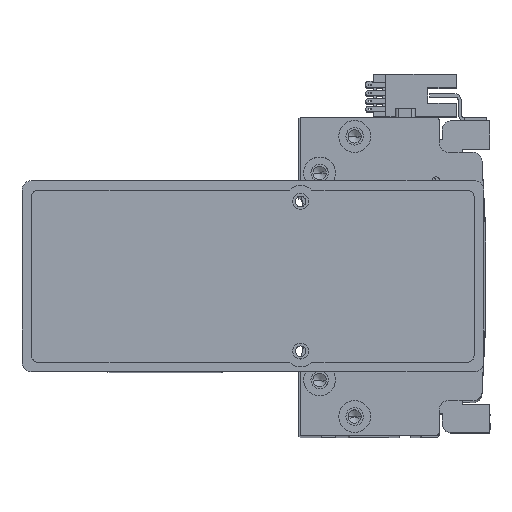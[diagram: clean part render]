
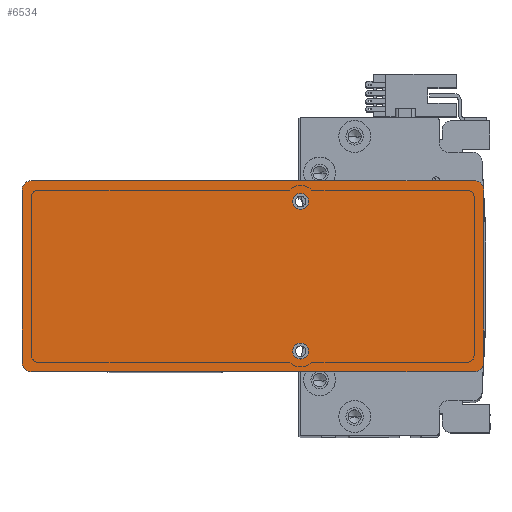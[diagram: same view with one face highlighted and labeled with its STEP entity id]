
A CAD part, top view. The second image highlights one B-rep face of the part: STEP entity #6534.
In plain terms, the highlighted planar face has unit normal (0, 0, 1) as drawn and (0, 0, -1) by its records, which use the part's own axes.
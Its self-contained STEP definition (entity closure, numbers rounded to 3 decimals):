
#179 = DIRECTION ( 'NONE',  ( 0., 0., -1. ) ) ;
#531 = VERTEX_POINT ( 'NONE', #945 ) ;
#945 = CARTESIAN_POINT ( 'NONE',  ( 17.5, 23.5, 0. ) ) ;
#1276 = EDGE_LOOP ( 'NONE', ( #40757, #7970, #22447, #2617, #34838, #4057, #14231, #16727 ) ) ;
#1485 = EDGE_CURVE ( 'NONE', #22270, #40033, #10555, .T. ) ;
#1716 = DIRECTION ( 'NONE',  ( 0., 0., -1. ) ) ;
#2617 = ORIENTED_EDGE ( 'NONE', *, *, #28160, .T. ) ;
#2722 = AXIS2_PLACEMENT_3D ( 'NONE', #32416, #13267, #35583 ) ;
#3420 = CIRCLE ( 'NONE', #23013, 2.5 ) ;
#3762 = CARTESIAN_POINT ( 'NONE',  ( 12.5, 23.5, 0. ) ) ;
#4057 = ORIENTED_EDGE ( 'NONE', *, *, #7630, .T. ) ;
#4168 = DIRECTION ( 'NONE',  ( 0., 0., -1. ) ) ;
#4259 = CARTESIAN_POINT ( 'NONE',  ( 72.5, -30., 0. ) ) ;
#4291 = VECTOR ( 'NONE', #6924, 1000. ) ;
#4428 = EDGE_CURVE ( 'NONE', #8315, #39169, #21119, .T. ) ;
#4937 = CARTESIAN_POINT ( 'NONE',  ( 69.5, 30., 0. ) ) ;
#5085 = EDGE_CURVE ( 'NONE', #531, #27422, #39192, .T. ) ;
#5554 = EDGE_CURVE ( 'NONE', #37574, #35000, #10160, .T. ) ;
#6534 = ADVANCED_FACE ( 'NONE', ( #16966, #9504, #33942 ), #34395, .F. ) ;
#6924 = DIRECTION ( 'NONE',  ( -1., 0., 0. ) ) ;
#7270 = EDGE_CURVE ( 'NONE', #37574, #40033, #21393, .T. ) ;
#7630 = EDGE_CURVE ( 'NONE', #29304, #30837, #35784, .T. ) ;
#7801 = AXIS2_PLACEMENT_3D ( 'NONE', #29879, #10743, #33069 ) ;
#7970 = ORIENTED_EDGE ( 'NONE', *, *, #7270, .T. ) ;
#8013 = CARTESIAN_POINT ( 'NONE',  ( 17.5, -23.5, 0. ) ) ;
#8315 = VERTEX_POINT ( 'NONE', #8013 ) ;
#8617 = CARTESIAN_POINT ( 'NONE',  ( 12.5, -23.5, 0. ) ) ;
#8791 = EDGE_CURVE ( 'NONE', #27422, #531, #40060, .T. ) ;
#9012 = DIRECTION ( 'NONE',  ( 0., 0., 1. ) ) ;
#9504 = FACE_BOUND ( 'NONE', #15411, .T. ) ;
#10160 = LINE ( 'NONE', #4259, #10637 ) ;
#10555 = LINE ( 'NONE', #34994, #18014 ) ;
#10637 = VECTOR ( 'NONE', #17089, 1000. ) ;
#10743 = DIRECTION ( 'NONE',  ( 0., 0., -1. ) ) ;
#11407 = DIRECTION ( 'NONE',  ( 0., 0., -1. ) ) ;
#11409 = AXIS2_PLACEMENT_3D ( 'NONE', #35089, #15998, #38321 ) ;
#11489 = EDGE_CURVE ( 'NONE', #34646, #35000, #31765, .T. ) ;
#11594 = CARTESIAN_POINT ( 'NONE',  ( 15., -23.5, 0. ) ) ;
#12289 = EDGE_LOOP ( 'NONE', ( #19392, #32164 ) ) ;
#12612 = VECTOR ( 'NONE', #38181, 1000. ) ;
#12670 = DIRECTION ( 'NONE',  ( 1., 0., 0. ) ) ;
#13267 = DIRECTION ( 'NONE',  ( 0., 0., -1. ) ) ;
#14191 = CIRCLE ( 'NONE', #27730, 3. ) ;
#14231 = ORIENTED_EDGE ( 'NONE', *, *, #41153, .F. ) ;
#14253 = EDGE_CURVE ( 'NONE', #29304, #31395, #20107, .T. ) ;
#14824 = DIRECTION ( 'NONE',  ( -1., 0., 0. ) ) ;
#15411 = EDGE_LOOP ( 'NONE', ( #20597, #35812 ) ) ;
#15998 = DIRECTION ( 'NONE',  ( 0., 0., -1. ) ) ;
#16727 = ORIENTED_EDGE ( 'NONE', *, *, #11489, .T. ) ;
#16966 = FACE_BOUND ( 'NONE', #12289, .T. ) ;
#17089 = DIRECTION ( 'NONE',  ( 0., 1., 0. ) ) ;
#17156 = CARTESIAN_POINT ( 'NONE',  ( -69.5, 30., 0. ) ) ;
#17276 = CARTESIAN_POINT ( 'NONE',  ( 69.5, -30., 0. ) ) ;
#17491 = AXIS2_PLACEMENT_3D ( 'NONE', #23330, #4168, #26503 ) ;
#18014 = VECTOR ( 'NONE', #12670, 1000. ) ;
#19365 = CARTESIAN_POINT ( 'NONE',  ( -69.5, 27., 0. ) ) ;
#19392 = ORIENTED_EDGE ( 'NONE', *, *, #8791, .F. ) ;
#19811 = CARTESIAN_POINT ( 'NONE',  ( -72.5, -27., 0. ) ) ;
#20107 = LINE ( 'NONE', #34963, #12612 ) ;
#20597 = ORIENTED_EDGE ( 'NONE', *, *, #25083, .F. ) ;
#20890 = CARTESIAN_POINT ( 'NONE',  ( -69.5, -27., 0. ) ) ;
#21119 = CIRCLE ( 'NONE', #17491, 2.5 ) ;
#21393 = CIRCLE ( 'NONE', #7801, 3. ) ;
#21693 = CARTESIAN_POINT ( 'NONE',  ( -69.5, -30., 0. ) ) ;
#22270 = VERTEX_POINT ( 'NONE', #21693 ) ;
#22447 = ORIENTED_EDGE ( 'NONE', *, *, #1485, .F. ) ;
#22571 = DIRECTION ( 'NONE',  ( 1., 0., 0. ) ) ;
#23013 = AXIS2_PLACEMENT_3D ( 'NONE', #11594, #33916, #14824 ) ;
#23330 = CARTESIAN_POINT ( 'NONE',  ( 15., -23.5, 0. ) ) ;
#24103 = DIRECTION ( 'NONE',  ( 1., 0., 0. ) ) ;
#25083 = EDGE_CURVE ( 'NONE', #39169, #8315, #3420, .T. ) ;
#25447 = AXIS2_PLACEMENT_3D ( 'NONE', #19365, #179, #22571 ) ;
#26503 = DIRECTION ( 'NONE',  ( -1., 0., 0. ) ) ;
#27422 = VERTEX_POINT ( 'NONE', #3762 ) ;
#27730 = AXIS2_PLACEMENT_3D ( 'NONE', #20890, #1716, #24103 ) ;
#28137 = CARTESIAN_POINT ( 'NONE',  ( 0., 0., 0. ) ) ;
#28160 = EDGE_CURVE ( 'NONE', #22270, #31395, #14191, .T. ) ;
#29243 = CARTESIAN_POINT ( 'NONE',  ( 72.5, 30., 0. ) ) ;
#29304 = VERTEX_POINT ( 'NONE', #40592 ) ;
#29612 = CARTESIAN_POINT ( 'NONE',  ( 72.5, 27., 0. ) ) ;
#29879 = CARTESIAN_POINT ( 'NONE',  ( 69.5, -27., 0. ) ) ;
#30554 = CARTESIAN_POINT ( 'NONE',  ( 15., 23.5, 0. ) ) ;
#30837 = VERTEX_POINT ( 'NONE', #17156 ) ;
#31353 = DIRECTION ( 'NONE',  ( 1., 0., 0. ) ) ;
#31395 = VERTEX_POINT ( 'NONE', #19811 ) ;
#31765 = CIRCLE ( 'NONE', #11409, 3. ) ;
#32164 = ORIENTED_EDGE ( 'NONE', *, *, #5085, .F. ) ;
#32416 = CARTESIAN_POINT ( 'NONE',  ( 15., 23.5, 0. ) ) ;
#33069 = DIRECTION ( 'NONE',  ( 1., 0., 0. ) ) ;
#33741 = DIRECTION ( 'NONE',  ( -1., 0., 0. ) ) ;
#33916 = DIRECTION ( 'NONE',  ( 0., 0., -1. ) ) ;
#33917 = AXIS2_PLACEMENT_3D ( 'NONE', #28137, #9012, #31353 ) ;
#33942 = FACE_OUTER_BOUND ( 'NONE', #1276, .T. ) ;
#34395 = PLANE ( 'NONE',  #33917 ) ;
#34646 = VERTEX_POINT ( 'NONE', #4937 ) ;
#34838 = ORIENTED_EDGE ( 'NONE', *, *, #14253, .F. ) ;
#34963 = CARTESIAN_POINT ( 'NONE',  ( -72.5, -30., 0. ) ) ;
#34994 = CARTESIAN_POINT ( 'NONE',  ( 72.5, -30., 0. ) ) ;
#35000 = VERTEX_POINT ( 'NONE', #29612 ) ;
#35089 = CARTESIAN_POINT ( 'NONE',  ( 69.5, 27., 0. ) ) ;
#35583 = DIRECTION ( 'NONE',  ( -1., 0., 0. ) ) ;
#35784 = CIRCLE ( 'NONE', #25447, 3. ) ;
#35812 = ORIENTED_EDGE ( 'NONE', *, *, #4428, .F. ) ;
#36786 = AXIS2_PLACEMENT_3D ( 'NONE', #30554, #11407, #33741 ) ;
#37317 = CARTESIAN_POINT ( 'NONE',  ( 72.5, -27., 0. ) ) ;
#37574 = VERTEX_POINT ( 'NONE', #37317 ) ;
#38181 = DIRECTION ( 'NONE',  ( 0., -1., 0. ) ) ;
#38265 = LINE ( 'NONE', #29243, #4291 ) ;
#38321 = DIRECTION ( 'NONE',  ( 1., 0., 0. ) ) ;
#39169 = VERTEX_POINT ( 'NONE', #8617 ) ;
#39192 = CIRCLE ( 'NONE', #36786, 2.5 ) ;
#40033 = VERTEX_POINT ( 'NONE', #17276 ) ;
#40060 = CIRCLE ( 'NONE', #2722, 2.5 ) ;
#40592 = CARTESIAN_POINT ( 'NONE',  ( -72.5, 27., 0. ) ) ;
#40757 = ORIENTED_EDGE ( 'NONE', *, *, #5554, .F. ) ;
#41153 = EDGE_CURVE ( 'NONE', #34646, #30837, #38265, .T. ) ;
